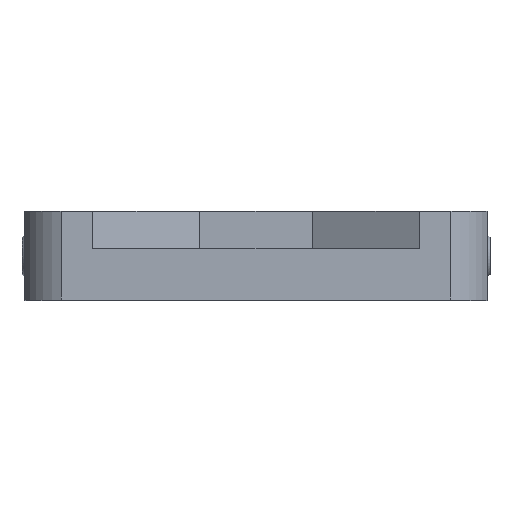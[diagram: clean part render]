
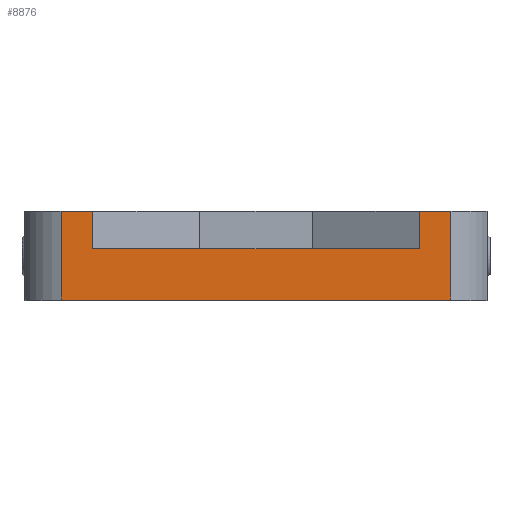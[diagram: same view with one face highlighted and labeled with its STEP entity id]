
A CAD part, top view. The second image highlights one B-rep face of the part: STEP entity #8876.
In plain terms, the highlighted planar face has unit normal (0, 0, 1).
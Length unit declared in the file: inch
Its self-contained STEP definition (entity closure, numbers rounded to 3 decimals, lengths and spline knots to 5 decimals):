
#14 = ORIENTED_EDGE ( 'NONE', *, *, #988, .F. ) ;
#36 = VECTOR ( 'NONE', #1248, 39.37008 ) ;
#60 = LINE ( 'NONE', #7598, #8944 ) ;
#185 = VECTOR ( 'NONE', #3716, 39.37008 ) ;
#215 = LINE ( 'NONE', #10693, #10430 ) ;
#238 = VERTEX_POINT ( 'NONE', #2226 ) ;
#552 = AXIS2_PLACEMENT_3D ( 'NONE', #7298, #9078, #8153 ) ;
#664 = EDGE_CURVE ( 'NONE', #1558, #10788, #5940, .T. ) ;
#754 = VERTEX_POINT ( 'NONE', #4165 ) ;
#988 = EDGE_CURVE ( 'NONE', #8297, #1558, #8971, .T. ) ;
#1248 = DIRECTION ( 'NONE',  ( 0., 1., 0. ) ) ;
#1558 = VERTEX_POINT ( 'NONE', #6861 ) ;
#1630 = DIRECTION ( 'NONE',  ( 0., 1., 0. ) ) ;
#1650 = CARTESIAN_POINT ( 'NONE',  ( -2.17178, 0.6811, 3.07087 ) ) ;
#2021 = DIRECTION ( 'NONE',  ( 0., 1., 0. ) ) ;
#2075 = CARTESIAN_POINT ( 'NONE',  ( -2.17178, 0.6811, 3.07087 ) ) ;
#2226 = CARTESIAN_POINT ( 'NONE',  ( 2.5913, 1.1811, 3.07087 ) ) ;
#2346 = EDGE_CURVE ( 'NONE', #754, #9063, #10629, .T. ) ;
#2920 = EDGE_CURVE ( 'NONE', #9063, #238, #4564, .T. ) ;
#3716 = DIRECTION ( 'NONE',  ( 1., 0., 0. ) ) ;
#4165 = CARTESIAN_POINT ( 'NONE',  ( 2.17178, 0.6811, 3.07087 ) ) ;
#4474 = PLANE ( 'NONE',  #552 ) ;
#4564 = LINE ( 'NONE', #9281, #9445 ) ;
#4575 = ORIENTED_EDGE ( 'NONE', *, *, #10151, .T. ) ;
#4717 = VERTEX_POINT ( 'NONE', #1650 ) ;
#4844 = DIRECTION ( 'NONE',  ( 1., 0., 0. ) ) ;
#5128 = VECTOR ( 'NONE', #4844, 39.37008 ) ;
#5132 = ORIENTED_EDGE ( 'NONE', *, *, #8054, .T. ) ;
#5511 = ORIENTED_EDGE ( 'NONE', *, *, #664, .F. ) ;
#5718 = CARTESIAN_POINT ( 'NONE',  ( 2.5913, 0., 3.07087 ) ) ;
#5940 = LINE ( 'NONE', #11454, #5128 ) ;
#6138 = EDGE_CURVE ( 'NONE', #4717, #754, #60, .T. ) ;
#6278 = DIRECTION ( 'NONE',  ( 1., 0., 0. ) ) ;
#6588 = LINE ( 'NONE', #8361, #185 ) ;
#6861 = CARTESIAN_POINT ( 'NONE',  ( -2.5913, 1.1811, 3.07087 ) ) ;
#7298 = CARTESIAN_POINT ( 'NONE',  ( 0., 0., 3.07087 ) ) ;
#7459 = VERTEX_POINT ( 'NONE', #5718 ) ;
#7463 = ORIENTED_EDGE ( 'NONE', *, *, #6138, .F. ) ;
#7473 = DIRECTION ( 'NONE',  ( 1., 0., 0. ) ) ;
#7598 = CARTESIAN_POINT ( 'NONE',  ( -2.17178, 0.6811, 3.07087 ) ) ;
#8054 = EDGE_CURVE ( 'NONE', #8297, #7459, #6588, .T. ) ;
#8153 = DIRECTION ( 'NONE',  ( 1., 0., 0. ) ) ;
#8221 = CARTESIAN_POINT ( 'NONE',  ( -2.17178, 1.1811, 3.07087 ) ) ;
#8297 = VERTEX_POINT ( 'NONE', #10681 ) ;
#8361 = CARTESIAN_POINT ( 'NONE',  ( 0., 0., 3.07087 ) ) ;
#8451 = VECTOR ( 'NONE', #2021, 39.37008 ) ;
#8560 = LINE ( 'NONE', #2075, #8451 ) ;
#8563 = ORIENTED_EDGE ( 'NONE', *, *, #11183, .T. ) ;
#8873 = EDGE_LOOP ( 'NONE', ( #8563, #5511, #14, #5132, #4575, #11250, #10003, #7463 ) ) ;
#8876 = ADVANCED_FACE ( 'NONE', ( #9319 ), #4474, .T. ) ;
#8944 = VECTOR ( 'NONE', #7473, 39.37008 ) ;
#8971 = LINE ( 'NONE', #10869, #10187 ) ;
#9063 = VERTEX_POINT ( 'NONE', #11669 ) ;
#9078 = DIRECTION ( 'NONE',  ( 0., 0., 1. ) ) ;
#9281 = CARTESIAN_POINT ( 'NONE',  ( 0., 1.1811, 3.07087 ) ) ;
#9319 = FACE_OUTER_BOUND ( 'NONE', #8873, .T. ) ;
#9445 = VECTOR ( 'NONE', #6278, 39.37008 ) ;
#10003 = ORIENTED_EDGE ( 'NONE', *, *, #2346, .F. ) ;
#10151 = EDGE_CURVE ( 'NONE', #7459, #238, #215, .T. ) ;
#10187 = VECTOR ( 'NONE', #1630, 39.37008 ) ;
#10430 = VECTOR ( 'NONE', #10640, 39.37008 ) ;
#10629 = LINE ( 'NONE', #11662, #36 ) ;
#10640 = DIRECTION ( 'NONE',  ( 0., 1., 0. ) ) ;
#10681 = CARTESIAN_POINT ( 'NONE',  ( -2.5913, 0., 3.07087 ) ) ;
#10693 = CARTESIAN_POINT ( 'NONE',  ( 2.5913, 0., 3.07087 ) ) ;
#10788 = VERTEX_POINT ( 'NONE', #8221 ) ;
#10869 = CARTESIAN_POINT ( 'NONE',  ( -2.5913, 0., 3.07087 ) ) ;
#11183 = EDGE_CURVE ( 'NONE', #4717, #10788, #8560, .T. ) ;
#11250 = ORIENTED_EDGE ( 'NONE', *, *, #2920, .F. ) ;
#11454 = CARTESIAN_POINT ( 'NONE',  ( 0., 1.1811, 3.07087 ) ) ;
#11662 = CARTESIAN_POINT ( 'NONE',  ( 2.17178, 0.6811, 3.07087 ) ) ;
#11669 = CARTESIAN_POINT ( 'NONE',  ( 2.17178, 1.1811, 3.07087 ) ) ;
